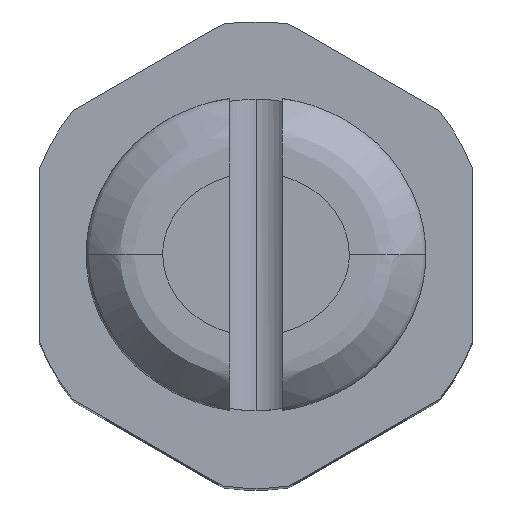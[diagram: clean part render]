
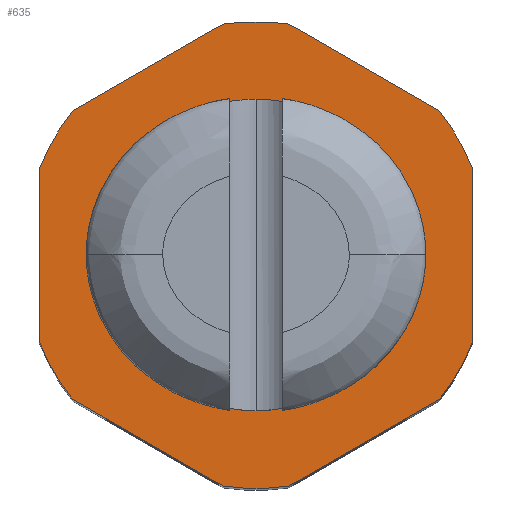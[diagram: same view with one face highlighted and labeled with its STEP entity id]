
A CAD part, top view. The second image highlights one B-rep face of the part: STEP entity #635.
In plain terms, the highlighted planar face has unit normal (0, 0, 1).
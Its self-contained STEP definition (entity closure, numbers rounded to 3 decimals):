
#117 = VERTEX_POINT ( 'NONE', #12050 ) ;
#120 = CARTESIAN_POINT ( 'NONE',  ( 2.065, -0.288, 0.889 ) ) ;
#123 = CARTESIAN_POINT ( 'NONE',  ( 2.458, 1.929, 0.889 ) ) ;
#136 = ORIENTED_EDGE ( 'NONE', *, *, #1627, .F. ) ;
#260 = ORIENTED_EDGE ( 'NONE', *, *, #4067, .F. ) ;
#409 = DIRECTION ( 'NONE',  ( -1., 0., 0. ) ) ;
#412 = VERTEX_POINT ( 'NONE', #123 ) ;
#635 = ADVANCED_FACE ( 'NONE', ( #8375, #8176 ), #3086, .F. ) ;
#766 = ORIENTED_EDGE ( 'NONE', *, *, #12637, .F. ) ;
#863 = AXIS2_PLACEMENT_3D ( 'NONE', #7010, #6871, #1436 ) ;
#1152 = AXIS2_PLACEMENT_3D ( 'NONE', #12163, #5892, #13150 ) ;
#1191 = LINE ( 'NONE', #7531, #2428 ) ;
#1200 = ORIENTED_EDGE ( 'NONE', *, *, #4761, .F. ) ;
#1336 = CARTESIAN_POINT ( 'NONE',  ( 0., 0., 0.889 ) ) ;
#1423 = LINE ( 'NONE', #10140, #3615 ) ;
#1436 = DIRECTION ( 'NONE',  ( -1., 0., 0. ) ) ;
#1533 = AXIS2_PLACEMENT_3D ( 'NONE', #13240, #12043, #1591 ) ;
#1559 = CARTESIAN_POINT ( 'NONE',  ( -2.458, -1.929, 0.889 ) ) ;
#1591 = DIRECTION ( 'NONE',  ( 1., 0., 0. ) ) ;
#1602 = EDGE_LOOP ( 'NONE', ( #10341, #11930, #260, #1200 ) ) ;
#1608 = EDGE_CURVE ( 'NONE', #6138, #13611, #7778, .T. ) ;
#1627 = EDGE_CURVE ( 'NONE', #7811, #6866, #4681, .T. ) ;
#1834 = ORIENTED_EDGE ( 'NONE', *, *, #13714, .F. ) ;
#2076 = DIRECTION ( 'NONE',  ( 0., 1., 0. ) ) ;
#2179 = VERTEX_POINT ( 'NONE', #7255 ) ;
#2233 = CARTESIAN_POINT ( 'NONE',  ( -2.065, -0.288, 0.889 ) ) ;
#2428 = VECTOR ( 'NONE', #9633, 1000. ) ;
#2502 = AXIS2_PLACEMENT_3D ( 'NONE', #5601, #8799, #7827 ) ;
#2639 = ORIENTED_EDGE ( 'NONE', *, *, #5505, .F. ) ;
#2669 = DIRECTION ( 'NONE',  ( -0.866, 0.5, 0. ) ) ;
#2749 = VERTEX_POINT ( 'NONE', #2806 ) ;
#2798 = ORIENTED_EDGE ( 'NONE', *, *, #3174, .F. ) ;
#2806 = CARTESIAN_POINT ( 'NONE',  ( 2.065, 0.288, 0.889 ) ) ;
#2854 = CARTESIAN_POINT ( 'NONE',  ( -0.442, 3.094, 0.889 ) ) ;
#2957 = CARTESIAN_POINT ( 'NONE',  ( 0., 0., 0.889 ) ) ;
#3021 = DIRECTION ( 'NONE',  ( 0., 0., -1. ) ) ;
#3086 = PLANE ( 'NONE',  #7336 ) ;
#3174 = EDGE_CURVE ( 'NONE', #7120, #6226, #12292, .T. ) ;
#3375 = LINE ( 'NONE', #7630, #12462 ) ;
#3394 = CARTESIAN_POINT ( 'NONE',  ( -2.065, 2.086, 0.889 ) ) ;
#3437 = EDGE_LOOP ( 'NONE', ( #10042, #13285, #766, #7337, #136, #1834, #5590, #6142, #2798, #6479, #2639, #5328 ) ) ;
#3497 = DIRECTION ( 'NONE',  ( 0., 0., -1. ) ) ;
#3530 = VECTOR ( 'NONE', #2669, 1000. ) ;
#3534 = DIRECTION ( 'NONE',  ( 0., 1., 0. ) ) ;
#3615 = VECTOR ( 'NONE', #5673, 1000. ) ;
#3777 = DIRECTION ( 'NONE',  ( -1., 0., 0. ) ) ;
#4067 = EDGE_CURVE ( 'NONE', #10875, #2749, #12288, .T. ) ;
#4190 = CIRCLE ( 'NONE', #11536, 3.125 ) ;
#4222 = AXIS2_PLACEMENT_3D ( 'NONE', #1336, #4543, #409 ) ;
#4390 = EDGE_CURVE ( 'NONE', #6035, #5451, #10661, .T. ) ;
#4396 = CARTESIAN_POINT ( 'NONE',  ( -2.458, -1.929, 0.889 ) ) ;
#4543 = DIRECTION ( 'NONE',  ( 0., 0., -1. ) ) ;
#4681 = LINE ( 'NONE', #11093, #6008 ) ;
#4761 = EDGE_CURVE ( 'NONE', #6035, #10875, #10441, .T. ) ;
#5306 = CARTESIAN_POINT ( 'NONE',  ( 2.9, -1.164, 0.889 ) ) ;
#5316 = VECTOR ( 'NONE', #3534, 1000. ) ;
#5328 = ORIENTED_EDGE ( 'NONE', *, *, #1608, .F. ) ;
#5367 = DIRECTION ( 'NONE',  ( 0., 1., 0. ) ) ;
#5451 = VERTEX_POINT ( 'NONE', #5470 ) ;
#5470 = CARTESIAN_POINT ( 'NONE',  ( -2.065, 0.288, 0.889 ) ) ;
#5505 = EDGE_CURVE ( 'NONE', #13611, #11370, #3375, .T. ) ;
#5590 = ORIENTED_EDGE ( 'NONE', *, *, #9024, .F. ) ;
#5601 = CARTESIAN_POINT ( 'NONE',  ( 0., 0., 0.889 ) ) ;
#5611 = EDGE_CURVE ( 'NONE', #6226, #10541, #6215, .T. ) ;
#5673 = DIRECTION ( 'NONE',  ( 0.866, -0.5, 0. ) ) ;
#5696 = CARTESIAN_POINT ( 'NONE',  ( 0.442, -3.094, 0.889 ) ) ;
#5752 = CARTESIAN_POINT ( 'NONE',  ( 0., 0., 0.889 ) ) ;
#5892 = DIRECTION ( 'NONE',  ( 0., 0., -1. ) ) ;
#6008 = VECTOR ( 'NONE', #7881, 1000. ) ;
#6035 = VERTEX_POINT ( 'NONE', #2233 ) ;
#6114 = EDGE_CURVE ( 'NONE', #8876, #6138, #1191, .T. ) ;
#6138 = VERTEX_POINT ( 'NONE', #5306 ) ;
#6141 = CARTESIAN_POINT ( 'NONE',  ( 2.9, 1.164, 0.889 ) ) ;
#6142 = ORIENTED_EDGE ( 'NONE', *, *, #5611, .F. ) ;
#6215 = CIRCLE ( 'NONE', #863, 3.125 ) ;
#6226 = VERTEX_POINT ( 'NONE', #4396 ) ;
#6284 = CARTESIAN_POINT ( 'NONE',  ( 0., 0., 0.889 ) ) ;
#6361 = EDGE_CURVE ( 'NONE', #11370, #7120, #7770, .T. ) ;
#6479 = ORIENTED_EDGE ( 'NONE', *, *, #6361, .F. ) ;
#6481 = LINE ( 'NONE', #7593, #9305 ) ;
#6543 = DIRECTION ( 'NONE',  ( -1., 0., 0. ) ) ;
#6570 = CARTESIAN_POINT ( 'NONE',  ( 2.458, -1.929, 0.889 ) ) ;
#6699 = DIRECTION ( 'NONE',  ( -1., 0., 0. ) ) ;
#6866 = VERTEX_POINT ( 'NONE', #2854 ) ;
#6871 = DIRECTION ( 'NONE',  ( 0., 0., -1. ) ) ;
#7010 = CARTESIAN_POINT ( 'NONE',  ( 0., 0., 0.889 ) ) ;
#7120 = VERTEX_POINT ( 'NONE', #8349 ) ;
#7255 = CARTESIAN_POINT ( 'NONE',  ( 0.442, 3.094, 0.889 ) ) ;
#7325 = CARTESIAN_POINT ( 'NONE',  ( -2.9, -1.164, 0.889 ) ) ;
#7336 = AXIS2_PLACEMENT_3D ( 'NONE', #2957, #3021, #11457 ) ;
#7337 = ORIENTED_EDGE ( 'NONE', *, *, #12236, .F. ) ;
#7479 = EDGE_CURVE ( 'NONE', #412, #8876, #4190, .T. ) ;
#7531 = CARTESIAN_POINT ( 'NONE',  ( 2.9, -1.164, 0.889 ) ) ;
#7593 = CARTESIAN_POINT ( 'NONE',  ( -2.9, 1.164, 0.889 ) ) ;
#7630 = CARTESIAN_POINT ( 'NONE',  ( 0.442, -3.094, 0.889 ) ) ;
#7770 = CIRCLE ( 'NONE', #10229, 3.125 ) ;
#7778 = CIRCLE ( 'NONE', #4222, 3.125 ) ;
#7811 = VERTEX_POINT ( 'NONE', #13606 ) ;
#7827 = DIRECTION ( 'NONE',  ( 1., 0., 0. ) ) ;
#7881 = DIRECTION ( 'NONE',  ( 0.866, 0.5, 0. ) ) ;
#8176 = FACE_BOUND ( 'NONE', #1602, .T. ) ;
#8209 = VECTOR ( 'NONE', #2076, 1000. ) ;
#8349 = CARTESIAN_POINT ( 'NONE',  ( -0.442, -3.094, 0.889 ) ) ;
#8375 = FACE_OUTER_BOUND ( 'NONE', #3437, .T. ) ;
#8799 = DIRECTION ( 'NONE',  ( 0., 0., 1. ) ) ;
#8876 = VERTEX_POINT ( 'NONE', #6141 ) ;
#8884 = DIRECTION ( 'NONE',  ( 0., 0., -1. ) ) ;
#9024 = EDGE_CURVE ( 'NONE', #10541, #117, #6481, .T. ) ;
#9305 = VECTOR ( 'NONE', #5367, 1000. ) ;
#9410 = AXIS2_PLACEMENT_3D ( 'NONE', #9989, #3497, #3777 ) ;
#9633 = DIRECTION ( 'NONE',  ( 0., -1., 0. ) ) ;
#9989 = CARTESIAN_POINT ( 'NONE',  ( 0., 0., 0.889 ) ) ;
#10042 = ORIENTED_EDGE ( 'NONE', *, *, #6114, .F. ) ;
#10140 = CARTESIAN_POINT ( 'NONE',  ( 2.458, 1.929, 0.889 ) ) ;
#10229 = AXIS2_PLACEMENT_3D ( 'NONE', #6284, #10886, #6699 ) ;
#10341 = ORIENTED_EDGE ( 'NONE', *, *, #4390, .T. ) ;
#10441 = CIRCLE ( 'NONE', #1533, 2.085 ) ;
#10530 = CARTESIAN_POINT ( 'NONE',  ( 2.065, 2.086, 0.889 ) ) ;
#10541 = VERTEX_POINT ( 'NONE', #7325 ) ;
#10661 = LINE ( 'NONE', #3394, #5316 ) ;
#10875 = VERTEX_POINT ( 'NONE', #120 ) ;
#10886 = DIRECTION ( 'NONE',  ( 0., 0., -1. ) ) ;
#11093 = CARTESIAN_POINT ( 'NONE',  ( -0.442, 3.094, 0.889 ) ) ;
#11370 = VERTEX_POINT ( 'NONE', #5696 ) ;
#11457 = DIRECTION ( 'NONE',  ( -1., 0., 0. ) ) ;
#11536 = AXIS2_PLACEMENT_3D ( 'NONE', #5752, #8884, #6543 ) ;
#11627 = CIRCLE ( 'NONE', #2502, 2.085 ) ;
#11888 = DIRECTION ( 'NONE',  ( -0.866, -0.5, 0. ) ) ;
#11930 = ORIENTED_EDGE ( 'NONE', *, *, #12776, .F. ) ;
#12043 = DIRECTION ( 'NONE',  ( 0., 0., 1. ) ) ;
#12050 = CARTESIAN_POINT ( 'NONE',  ( -2.9, 1.164, 0.889 ) ) ;
#12163 = CARTESIAN_POINT ( 'NONE',  ( 0., 0., 0.889 ) ) ;
#12236 = EDGE_CURVE ( 'NONE', #6866, #2179, #12969, .T. ) ;
#12288 = LINE ( 'NONE', #10530, #8209 ) ;
#12292 = LINE ( 'NONE', #1559, #3530 ) ;
#12309 = CIRCLE ( 'NONE', #9410, 3.125 ) ;
#12462 = VECTOR ( 'NONE', #11888, 1000. ) ;
#12637 = EDGE_CURVE ( 'NONE', #2179, #412, #1423, .T. ) ;
#12776 = EDGE_CURVE ( 'NONE', #2749, #5451, #11627, .T. ) ;
#12969 = CIRCLE ( 'NONE', #1152, 3.125 ) ;
#13150 = DIRECTION ( 'NONE',  ( -1., 0., 0. ) ) ;
#13240 = CARTESIAN_POINT ( 'NONE',  ( 0., 0., 0.889 ) ) ;
#13285 = ORIENTED_EDGE ( 'NONE', *, *, #7479, .F. ) ;
#13606 = CARTESIAN_POINT ( 'NONE',  ( -2.458, 1.929, 0.889 ) ) ;
#13611 = VERTEX_POINT ( 'NONE', #6570 ) ;
#13714 = EDGE_CURVE ( 'NONE', #117, #7811, #12309, .T. ) ;
